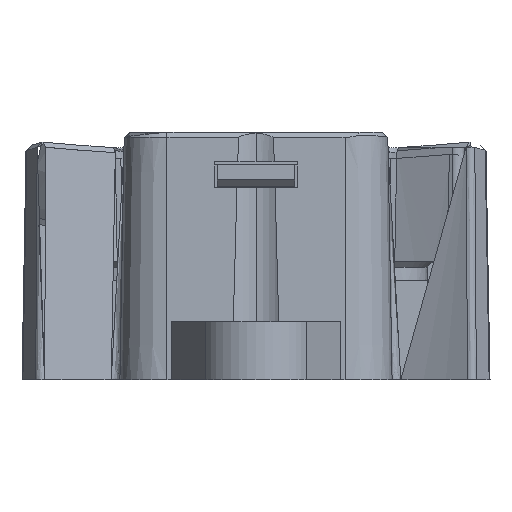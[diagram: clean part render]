
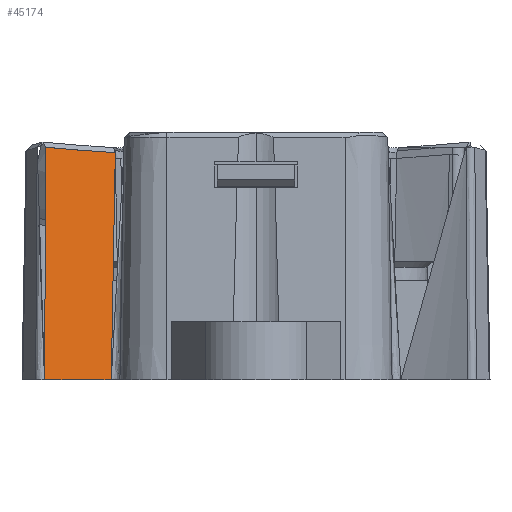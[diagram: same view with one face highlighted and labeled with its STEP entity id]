
A CAD part, front view. The second image highlights one B-rep face of the part: STEP entity #45174.
In plain terms, the highlighted conical face has half-angle 1 degrees and reference radius 32.757 mm.
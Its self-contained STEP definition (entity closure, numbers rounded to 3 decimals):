
#22140=CARTESIAN_POINT('',(0.,-17.195,
0.));
#22141=DIRECTION('',(0.,0.,1.));
#22142=DIRECTION('',(-0.344,0.939,0.));
#22143=AXIS2_PLACEMENT_3D('',#22140,#22141,#22142);
#35248=CARTESIAN_POINT('',(-16.405,10.977,
0.));
#35249=CARTESIAN_POINT('',(-16.391,11.032,
2.307));
#35250=CARTESIAN_POINT('',(-16.363,11.136,
6.719));
#35251=CARTESIAN_POINT('',(-16.326,11.279,
12.731));
#35252=CARTESIAN_POINT('',(-16.304,11.364,
16.333));
#35253=CARTESIAN_POINT('',(-16.293,11.404,
18.034));
#35255=CARTESIAN_POINT('',(-16.293,11.404,
18.034));
#35256=CARTESIAN_POINT('',(-16.248,11.43,
18.03));
#35257=CARTESIAN_POINT('',(-16.158,11.481,
18.021));
#35258=CARTESIAN_POINT('',(-16.022,11.557,
18.009));
#35259=CARTESIAN_POINT('',(-15.885,11.632,
17.997));
#35260=CARTESIAN_POINT('',(-15.748,11.707,
17.984));
#35261=CARTESIAN_POINT('',(-15.611,11.781,
17.972));
#35262=CARTESIAN_POINT('',(-15.474,11.854,
17.96));
#35263=CARTESIAN_POINT('',(-15.336,11.927,
17.948));
#35264=CARTESIAN_POINT('',(-15.198,11.999,
17.936));
#35265=CARTESIAN_POINT('',(-15.06,12.071,
17.924));
#35266=CARTESIAN_POINT('',(-14.921,12.141,
17.912));
#35267=CARTESIAN_POINT('',(-14.782,12.212,
17.901));
#35268=CARTESIAN_POINT('',(-14.642,12.281,
17.889));
#35269=CARTESIAN_POINT('',(-14.502,12.35,
17.877));
#35270=CARTESIAN_POINT('',(-14.362,12.418,
17.866));
#35271=CARTESIAN_POINT('',(-14.222,12.485,
17.854));
#35272=CARTESIAN_POINT('',(-14.081,12.552,
17.843));
#35273=CARTESIAN_POINT('',(-13.94,12.618,
17.832));
#35274=CARTESIAN_POINT('',(-13.799,12.684,
17.82));
#35275=CARTESIAN_POINT('',(-13.657,12.749,
17.809));
#35276=CARTESIAN_POINT('',(-13.515,12.813,
17.798));
#35277=CARTESIAN_POINT('',(-13.373,12.876,
17.787));
#35278=CARTESIAN_POINT('',(-13.231,12.939,
17.776));
#35279=CARTESIAN_POINT('',(-13.088,13.001,
17.765));
#35280=CARTESIAN_POINT('',(-12.945,13.062,
17.754));
#35281=CARTESIAN_POINT('',(-12.801,13.123,
17.744));
#35282=CARTESIAN_POINT('',(-12.658,13.183,
17.733));
#35283=CARTESIAN_POINT('',(-12.514,13.243,
17.722));
#35284=CARTESIAN_POINT('',(-12.37,13.301,
17.712));
#35285=CARTESIAN_POINT('',(-12.225,13.359,
17.701));
#35286=CARTESIAN_POINT('',(-12.081,13.417,
17.691));
#35287=CARTESIAN_POINT('',(-11.936,13.473,
17.68));
#35288=CARTESIAN_POINT('',(-11.79,13.529,
17.67));
#35289=CARTESIAN_POINT('',(-11.645,13.584,
17.66));
#35290=CARTESIAN_POINT('',(-11.499,13.639,
17.65));
#35291=CARTESIAN_POINT('',(-11.353,13.693,
17.64));
#35292=CARTESIAN_POINT('',(-11.207,13.746,
17.63));
#35293=CARTESIAN_POINT('',(-11.06,13.798,
17.62));
#35294=CARTESIAN_POINT('',(-10.962,13.833,
17.613));
#35295=CARTESIAN_POINT('',(-10.913,13.85,
17.61));
#35297=CARTESIAN_POINT('',(-10.913,13.85,
17.61));
#35298=CARTESIAN_POINT('',(-10.949,13.801,
15.633));
#35299=CARTESIAN_POINT('',(-11.019,13.703,
11.692));
#35300=CARTESIAN_POINT('',(-11.124,13.557,
5.822));
#35301=CARTESIAN_POINT('',(-11.193,13.459,
1.936));
#35302=CARTESIAN_POINT('',(-11.227,13.411,
0.));
#35362=VERTEX_POINT('',#35302);
#35363=VERTEX_POINT('',#35297);
#35364=VERTEX_POINT('',#35255);
#35365=VERTEX_POINT('',#35248);
#45160=CARTESIAN_POINT('',(0.,-17.195,
9.017));
#45161=DIRECTION('',(0.,0.,1.));
#45162=DIRECTION('',(-1.,0.,0.));
#45163=AXIS2_PLACEMENT_3D('',#45160,#45161,#45162);
#45164=CONICAL_SURFACE('',#45163,32.757,1.);
#45165=ORIENTED_EDGE('',*,*,#36473,.T.);
#45167=ORIENTED_EDGE('',*,*,#45166,.T.);
#45169=ORIENTED_EDGE('',*,*,#45168,.T.);
#45171=ORIENTED_EDGE('',*,*,#45170,.T.);
#45172=EDGE_LOOP('',(#45165,#45167,#45169,#45171));
#45173=FACE_OUTER_BOUND('',#45172,.F.);
#45174=ADVANCED_FACE('',(#45173),#45164,.F.);
#22144=CIRCLE('',#22143,32.6);
#35254=B_SPLINE_CURVE_WITH_KNOTS('',3,(#35248,#35249,#35250,#35251,#35252,
#35253),.UNSPECIFIED.,.F.,.F.,(4,1,1,4),(0.,0.333,
0.667,1.),.UNSPECIFIED.);
#35296=B_SPLINE_CURVE_WITH_KNOTS('',3,(#35255,#35256,#35257,#35258,#35259,
#35260,#35261,#35262,#35263,#35264,#35265,#35266,#35267,#35268,#35269,#35270,
#35271,#35272,#35273,#35274,#35275,#35276,#35277,#35278,#35279,#35280,#35281,
#35282,#35283,#35284,#35285,#35286,#35287,#35288,#35289,#35290,#35291,#35292,
#35293,#35294,#35295),.UNSPECIFIED.,.F.,.F.,(4,1,1,1,1,1,1,1,1,1,1,1,1,1,1,1,1,
1,1,1,1,1,1,1,1,1,1,1,1,1,1,1,1,1,1,1,1,1,4),(0.,0.026,
0.053,0.079,0.105,0.132,
0.158,0.184,0.211,0.237,
0.263,0.289,0.316,0.342,
0.368,0.395,0.421,0.447,
0.474,0.5,0.526,0.553,0.579,
0.605,0.632,0.658,0.684,
0.711,0.737,0.763,0.789,
0.816,0.842,0.868,0.895,
0.921,0.947,0.974,1.),.UNSPECIFIED.);
#35303=B_SPLINE_CURVE_WITH_KNOTS('',3,(#35297,#35298,#35299,#35300,#35301,
#35302),.UNSPECIFIED.,.F.,.F.,(4,1,1,4),(0.,0.333,
0.667,1.),.UNSPECIFIED.);
#36473=EDGE_CURVE('',#35362,#35365,#22144,.T.);
#45166=EDGE_CURVE('',#35365,#35364,#35254,.T.);
#45168=EDGE_CURVE('',#35364,#35363,#35296,.T.);
#45170=EDGE_CURVE('',#35363,#35362,#35303,.T.);
